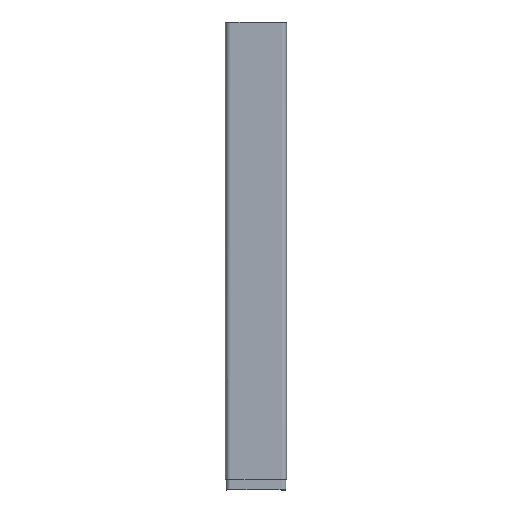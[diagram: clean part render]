
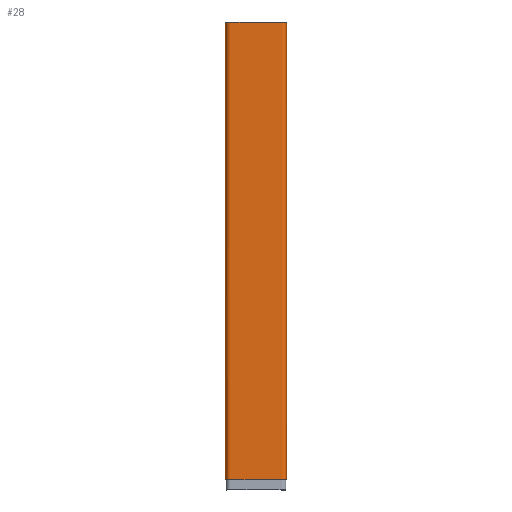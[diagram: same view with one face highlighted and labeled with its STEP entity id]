
A CAD part, left-side view. The second image highlights one B-rep face of the part: STEP entity #28.
In plain terms, the highlighted free-form (B-spline) face has degree [3, 2] with [7, 9] control points.
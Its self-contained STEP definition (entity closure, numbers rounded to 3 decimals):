
#28=ADVANCED_FACE('',(#48),#268,.T.);
#48=FACE_OUTER_BOUND('',#68,.T.);
#68=EDGE_LOOP('',(#124,#125,#126,#127));
#124=ORIENTED_EDGE('',*,*,#183,.T.);
#125=ORIENTED_EDGE('',*,*,#185,.T.);
#126=ORIENTED_EDGE('',*,*,#180,.F.);
#127=ORIENTED_EDGE('',*,*,#181,.T.);
#180=EDGE_CURVE('',#248,#249,#222,.T.);
#181=EDGE_CURVE('',#248,#250,#223,.T.);
#183=EDGE_CURVE('',#250,#251,#225,.T.);
#185=EDGE_CURVE('',#251,#249,#227,.T.);
#222=(
BOUNDED_CURVE()
B_SPLINE_CURVE(3,(#1106,#1107,#1108,#1109),.UNSPECIFIED.,.F.,.F.)
B_SPLINE_CURVE_WITH_KNOTS((4,4),(0.,1350.003),.UNSPECIFIED.)
CURVE()
GEOMETRIC_REPRESENTATION_ITEM()
RATIONAL_B_SPLINE_CURVE((1.,1.,1.,1.))
REPRESENTATION_ITEM('')
);
#223=(
BOUNDED_CURVE()
B_SPLINE_CURVE(2,(#1110,#1111,#1112,#1113,#1114,#1115,#1116,#1117,#1118),
 .UNSPECIFIED.,.F.,.F.)
B_SPLINE_CURVE_WITH_KNOTS((3,2,2,2,3),(-1589.934,-1566.372,
-1416.372,-1392.81,-1242.81),.UNSPECIFIED.)
CURVE()
GEOMETRIC_REPRESENTATION_ITEM()
RATIONAL_B_SPLINE_CURVE((1.,0.707,1.,1.,1.,0.707,
1.,1.,1.))
REPRESENTATION_ITEM('')
);
#225=(
BOUNDED_CURVE()
B_SPLINE_CURVE(3,(#1128,#1129,#1130,#1131),.UNSPECIFIED.,.F.,.F.)
B_SPLINE_CURVE_WITH_KNOTS((4,4),(0.,1350.003),.UNSPECIFIED.)
CURVE()
GEOMETRIC_REPRESENTATION_ITEM()
RATIONAL_B_SPLINE_CURVE((1.,1.,1.,1.))
REPRESENTATION_ITEM('')
);
#227=(
BOUNDED_CURVE()
B_SPLINE_CURVE(2,(#1141,#1142,#1143,#1144,#1145,#1146,#1147,#1148,#1149),
 .UNSPECIFIED.,.F.,.F.)
B_SPLINE_CURVE_WITH_KNOTS((3,2,2,2,3),(1242.81,1392.81,
1416.372,1566.372,1589.934),.UNSPECIFIED.)
CURVE()
GEOMETRIC_REPRESENTATION_ITEM()
RATIONAL_B_SPLINE_CURVE((1.,1.,1.,0.707,1.,1.,1.,0.707,
1.))
REPRESENTATION_ITEM('')
);
#248=VERTEX_POINT('',#1098);
#249=VERTEX_POINT('',#1099);
#250=VERTEX_POINT('',#1100);
#251=VERTEX_POINT('',#1101);
#268=(
BOUNDED_SURFACE()
B_SPLINE_SURFACE(3,2,((#774,#775,#776,#777,#778,#779,#780,#781,#782),(#783,
#784,#785,#786,#787,#788,#789,#790,#791),(#792,#793,#794,#795,#796,#797,
#798,#799,#800),(#801,#802,#803,#804,#805,#806,#807,#808,#809),(#810,#811,
#812,#813,#814,#815,#816,#817,#818),(#819,#820,#821,#822,#823,#824,#825,
#826,#827),(#828,#829,#830,#831,#832,#833,#834,#835,#836)),
 .UNSPECIFIED.,.F.,.F.,.F.)
B_SPLINE_SURFACE_WITH_KNOTS((4,3,4),(3,2,2,2,3),(0.,2892.721,3195.711),
(0.,155.564,180.,335.564,360.),.UNSPECIFIED.)
GEOMETRIC_REPRESENTATION_ITEM()
RATIONAL_B_SPLINE_SURFACE(((1.,1.,1.,0.707,1.,1.,1.,0.707,
1.),(1.,1.,1.,0.707,
1.,1.,1.,0.707,
1.),(1.,1.,1.,0.707,1.,1.,1.,0.707,
1.),(1.,1.,1.,0.707,1.,1.,1.,0.707,1.),(1.,1.,1.,
0.707,1.,1.,1.,0.707,1.),(1.,1.,1.,0.707,
1.,1.,1.,0.707,1.),(1.,1.,1.,0.707,1.,1.,1.,0.707,
1.)))
REPRESENTATION_ITEM('')
SURFACE()
);
#774=CARTESIAN_POINT('',(5.,90.,6320.));
#775=CARTESIAN_POINT('',(-70.,90.,6320.));
#776=CARTESIAN_POINT('',(-145.,90.,6320.));
#777=CARTESIAN_POINT('',(-160.,90.,6320.));
#778=CARTESIAN_POINT('',(-160.,75.,6320.));
#779=CARTESIAN_POINT('',(-160.,0.,6320.));
#780=CARTESIAN_POINT('',(-160.,-75.,6320.));
#781=CARTESIAN_POINT('',(-160.,-90.,6320.));
#782=CARTESIAN_POINT('',(-145.,-90.,6320.));
#783=CARTESIAN_POINT('',(5.,90.,5355.78));
#784=CARTESIAN_POINT('',(-70.,90.,5355.78));
#785=CARTESIAN_POINT('',(-145.,90.,5355.78));
#786=CARTESIAN_POINT('',(-160.,90.,5355.78));
#787=CARTESIAN_POINT('',(-160.,75.,5355.78));
#788=CARTESIAN_POINT('',(-160.,0.,5355.78));
#789=CARTESIAN_POINT('',(-160.,-75.,5355.78));
#790=CARTESIAN_POINT('',(-160.,-90.,5355.78));
#791=CARTESIAN_POINT('',(-145.,-90.,5355.78));
#792=CARTESIAN_POINT('',(5.,90.,4391.504));
#793=CARTESIAN_POINT('',(-70.,90.,4391.504));
#794=CARTESIAN_POINT('',(-145.,90.,4391.504));
#795=CARTESIAN_POINT('',(-160.,90.,4391.504));
#796=CARTESIAN_POINT('',(-160.,75.,4391.504));
#797=CARTESIAN_POINT('',(-160.,0.,4391.504));
#798=CARTESIAN_POINT('',(-160.,-75.,4391.504));
#799=CARTESIAN_POINT('',(-160.,-90.,4391.504));
#800=CARTESIAN_POINT('',(-145.,-90.,4391.504));
#801=CARTESIAN_POINT('',(5.,90.,3427.279));
#802=CARTESIAN_POINT('',(-70.,90.,3427.279));
#803=CARTESIAN_POINT('',(-145.,90.,3427.279));
#804=CARTESIAN_POINT('',(-160.,90.,3427.279));
#805=CARTESIAN_POINT('',(-160.,75.,3427.279));
#806=CARTESIAN_POINT('',(-160.,0.,3427.279));
#807=CARTESIAN_POINT('',(-160.,-75.,3427.279));
#808=CARTESIAN_POINT('',(-160.,-90.,3427.279));
#809=CARTESIAN_POINT('',(-145.,-90.,3427.279));
#810=CARTESIAN_POINT('',(5.,90.,3326.284));
#811=CARTESIAN_POINT('',(-70.,90.,3326.284));
#812=CARTESIAN_POINT('',(-145.,90.,3326.284));
#813=CARTESIAN_POINT('',(-160.,90.,3326.284));
#814=CARTESIAN_POINT('',(-160.,75.,3326.284));
#815=CARTESIAN_POINT('',(-160.,0.,3326.284));
#816=CARTESIAN_POINT('',(-160.,-75.,3326.284));
#817=CARTESIAN_POINT('',(-160.,-90.,3326.284));
#818=CARTESIAN_POINT('',(-145.,-90.,3326.284));
#819=CARTESIAN_POINT('',(5.,90.,3225.289));
#820=CARTESIAN_POINT('',(-70.,90.,3225.289));
#821=CARTESIAN_POINT('',(-145.,90.,3225.289));
#822=CARTESIAN_POINT('',(-160.,90.,3225.289));
#823=CARTESIAN_POINT('',(-160.,75.,3225.289));
#824=CARTESIAN_POINT('',(-160.,0.,3225.289));
#825=CARTESIAN_POINT('',(-160.,-75.,3225.289));
#826=CARTESIAN_POINT('',(-160.,-90.,3225.289));
#827=CARTESIAN_POINT('',(-145.,-90.,3225.289));
#828=CARTESIAN_POINT('',(5.,90.,3124.294));
#829=CARTESIAN_POINT('',(-70.,90.,3124.294));
#830=CARTESIAN_POINT('',(-145.,90.,3124.294));
#831=CARTESIAN_POINT('',(-160.,90.,3124.294));
#832=CARTESIAN_POINT('',(-160.,75.,3124.294));
#833=CARTESIAN_POINT('',(-160.,0.,3124.294));
#834=CARTESIAN_POINT('',(-160.,-75.,3124.294));
#835=CARTESIAN_POINT('',(-160.,-90.,3124.294));
#836=CARTESIAN_POINT('',(-145.,-90.,3124.294));
#1098=CARTESIAN_POINT('',(-145.,-90.,6320.));
#1099=CARTESIAN_POINT('',(-145.,-90.,4970.));
#1100=CARTESIAN_POINT('',(5.,90.,6320.));
#1101=CARTESIAN_POINT('',(5.,90.,4970.));
#1106=CARTESIAN_POINT('',(-145.,-90.,6320.));
#1107=CARTESIAN_POINT('',(-145.,-90.,5870.009));
#1108=CARTESIAN_POINT('',(-145.,-90.,5420.005));
#1109=CARTESIAN_POINT('',(-145.,-90.,4970.));
#1110=CARTESIAN_POINT('',(-145.,-90.,6320.));
#1111=CARTESIAN_POINT('',(-160.,-90.,6320.));
#1112=CARTESIAN_POINT('',(-160.,-75.,6320.));
#1113=CARTESIAN_POINT('',(-160.,0.,6320.));
#1114=CARTESIAN_POINT('',(-160.,75.,6320.));
#1115=CARTESIAN_POINT('',(-160.,90.,6320.));
#1116=CARTESIAN_POINT('',(-145.,90.,6320.));
#1117=CARTESIAN_POINT('',(-70.,90.,6320.));
#1118=CARTESIAN_POINT('',(5.,90.,6320.));
#1128=CARTESIAN_POINT('',(5.,90.,6320.));
#1129=CARTESIAN_POINT('',(5.,90.,5870.009));
#1130=CARTESIAN_POINT('',(5.,90.,5420.005));
#1131=CARTESIAN_POINT('',(5.,90.,4970.));
#1141=CARTESIAN_POINT('',(5.,90.,4970.));
#1142=CARTESIAN_POINT('',(-70.,90.,4970.));
#1143=CARTESIAN_POINT('',(-145.,90.,4970.));
#1144=CARTESIAN_POINT('',(-160.,90.,4970.));
#1145=CARTESIAN_POINT('',(-160.,75.,4970.));
#1146=CARTESIAN_POINT('',(-160.,0.,4970.));
#1147=CARTESIAN_POINT('',(-160.,-75.,4970.));
#1148=CARTESIAN_POINT('',(-160.,-90.,4970.));
#1149=CARTESIAN_POINT('',(-145.,-90.,4970.));
